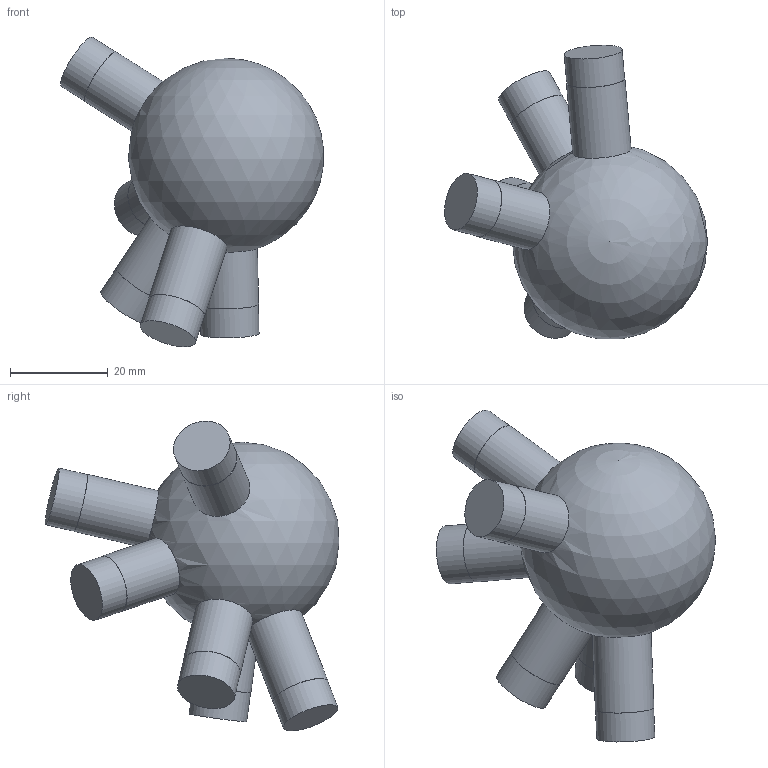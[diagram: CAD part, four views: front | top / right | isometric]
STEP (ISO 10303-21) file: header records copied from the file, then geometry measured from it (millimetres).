
FILE_DESCRIPTION(('Open CASCADE Model'),'2;1');
FILE_NAME('Open CASCADE Shape Model','2026-10-21T12:47:57',('Author'),( 'Open CASCADE'),'Open CASCADE STEP processor 7.9','Open CASCADE 7.9' ,'Unknown');
FILE_SCHEMA(('AUTOMOTIVE_DESIGN { 1 0 10303 214 1 1 1 1 }'));
Length unit declared in the file: millimetre
Products named in the file (1): Open CASCADE STEP translator 7.9 155
Bounding box: 53.83 x 60.09 x 63.43 mm (x, y, z)
Volume: 46248.2 mm3; surface area: 9370.4 mm2
Topology: 1 solids, 1 shells, 26 faces, 51 edges, 35 vertices
Faces by surface type: cylinder 12, plane 12, sphere 2
Full cylindrical faces by diameter (mm): 11.9 x6, 12 x6
Entity records: 2296 total; most frequent: CARTESIAN_POINT 1206, DIRECTION 217, ORIENTED_EDGE 100, PCURVE 100, DEFINITIONAL_REPRESENTATION 100, LINE 69, VECTOR 69, AXIS2_PLACEMENT_3D 65
